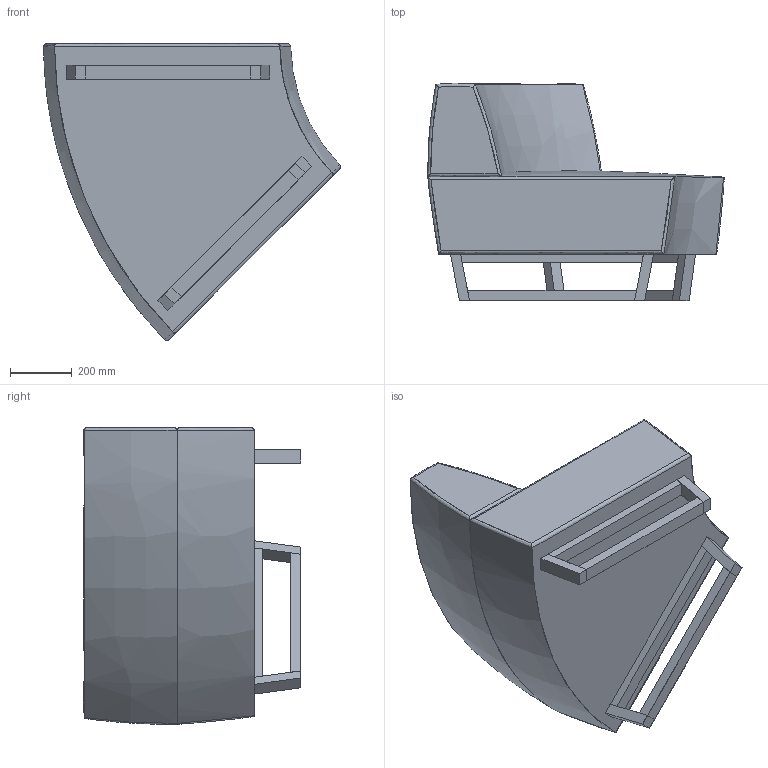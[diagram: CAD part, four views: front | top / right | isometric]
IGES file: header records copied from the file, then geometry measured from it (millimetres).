
Start section: SolidWorks IGES file using analytic representation for surfaces
Global section: file name: P:\3D CAD BLOCKS\us\45 DEGREE SEAT WITH LONG BACK\us - 45 DEGREE SEAT WITH LONG BACK.IGS; native system: SolidWorks 2012; preprocessor: SolidWorks 2012; author: adam; date: 140226.123623; units: millimetre
Bounding box: 961.16 x 703.45 x 961.1 mm (x, y, z)
Surface area: 3926696.6 mm2 (no closed solid volume)
Topology: 0 solids, 0 shells, 142 faces, 1385 edges, 1385 vertices
Faces by surface type: bspline 120, revolution 22
